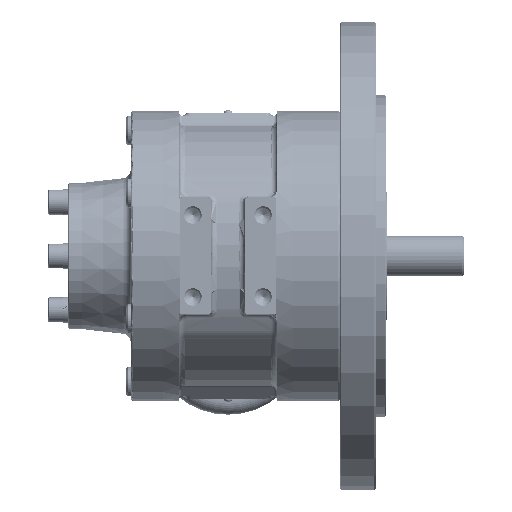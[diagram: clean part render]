
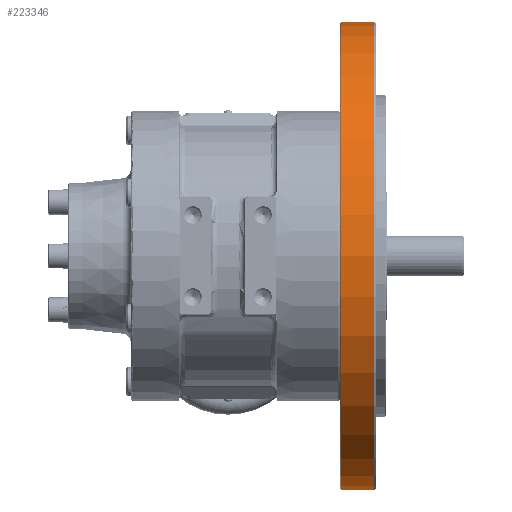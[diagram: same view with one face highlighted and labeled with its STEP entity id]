
A CAD part, front view. The second image highlights one B-rep face of the part: STEP entity #223346.
In plain terms, the highlighted cylindrical face has radius 80 mm (diameter 160 mm), a partial arc.
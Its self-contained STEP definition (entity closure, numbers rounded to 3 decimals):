
#8952 = CARTESIAN_POINT ( 'NONE',  ( 50.08, 3.97, 0. ) ) ;
#13492 = LINE ( 'NONE', #153356, #78335 ) ;
#14810 = EDGE_CURVE ( 'NONE', #147920, #149568, #259214, .T. ) ;
#25302 = ORIENTED_EDGE ( 'NONE', *, *, #14810, .F. ) ;
#28782 = EDGE_CURVE ( 'NONE', #57199, #88112, #79979, .T. ) ;
#44765 = CARTESIAN_POINT ( 'NONE',  ( 50.08, 3.97, 80. ) ) ;
#57199 = VERTEX_POINT ( 'NONE', #267469 ) ;
#67755 = CARTESIAN_POINT ( 'NONE',  ( 38.78, 3.97, -80. ) ) ;
#78335 = VECTOR ( 'NONE', #200468, 1000. ) ;
#79979 = CIRCLE ( 'NONE', #198172, 80. ) ;
#87049 = CYLINDRICAL_SURFACE ( 'NONE', #182739, 80. ) ;
#88112 = VERTEX_POINT ( 'NONE', #44765 ) ;
#88859 = ORIENTED_EDGE ( 'NONE', *, *, #253123, .T. ) ;
#106761 = DIRECTION ( 'NONE',  ( -1., 0., 0. ) ) ;
#116671 = AXIS2_PLACEMENT_3D ( 'NONE', #220310, #106761, #148027 ) ;
#117474 = CARTESIAN_POINT ( 'NONE',  ( 36.28, 3.97, 80. ) ) ;
#129487 = EDGE_CURVE ( 'NONE', #57199, #147920, #13492, .T. ) ;
#144679 = FACE_OUTER_BOUND ( 'NONE', #210418, .T. ) ;
#145443 = ORIENTED_EDGE ( 'NONE', *, *, #28782, .T. ) ;
#147920 = VERTEX_POINT ( 'NONE', #67755 ) ;
#148027 = DIRECTION ( 'NONE',  ( 0., 0., -1. ) ) ;
#149568 = VERTEX_POINT ( 'NONE', #245239 ) ;
#153356 = CARTESIAN_POINT ( 'NONE',  ( 36.28, 3.97, -80. ) ) ;
#180207 = DIRECTION ( 'NONE',  ( 0., 0., -1. ) ) ;
#182739 = AXIS2_PLACEMENT_3D ( 'NONE', #183196, #295648, #180207 ) ;
#183196 = CARTESIAN_POINT ( 'NONE',  ( 36.28, 3.97, 0. ) ) ;
#192690 = DIRECTION ( 'NONE',  ( 0., 0., -1. ) ) ;
#193671 = DIRECTION ( 'NONE',  ( -1., 0., 0. ) ) ;
#196318 = ORIENTED_EDGE ( 'NONE', *, *, #129487, .F. ) ;
#198172 = AXIS2_PLACEMENT_3D ( 'NONE', #8952, #193671, #192690 ) ;
#200468 = DIRECTION ( 'NONE',  ( -1., 0., 0. ) ) ;
#210418 = EDGE_LOOP ( 'NONE', ( #145443, #88859, #25302, #196318 ) ) ;
#220310 = CARTESIAN_POINT ( 'NONE',  ( 38.78, 3.97, 0. ) ) ;
#223346 = ADVANCED_FACE ( 'NONE', ( #144679 ), #87049, .T. ) ;
#233958 = VECTOR ( 'NONE', #258964, 1000. ) ;
#245239 = CARTESIAN_POINT ( 'NONE',  ( 38.78, 3.97, 80. ) ) ;
#253123 = EDGE_CURVE ( 'NONE', #88112, #149568, #269659, .T. ) ;
#258964 = DIRECTION ( 'NONE',  ( -1., 0., 0. ) ) ;
#259214 = CIRCLE ( 'NONE', #116671, 80. ) ;
#267469 = CARTESIAN_POINT ( 'NONE',  ( 50.08, 3.97, -80. ) ) ;
#269659 = LINE ( 'NONE', #117474, #233958 ) ;
#295648 = DIRECTION ( 'NONE',  ( -1., 0., 0. ) ) ;
